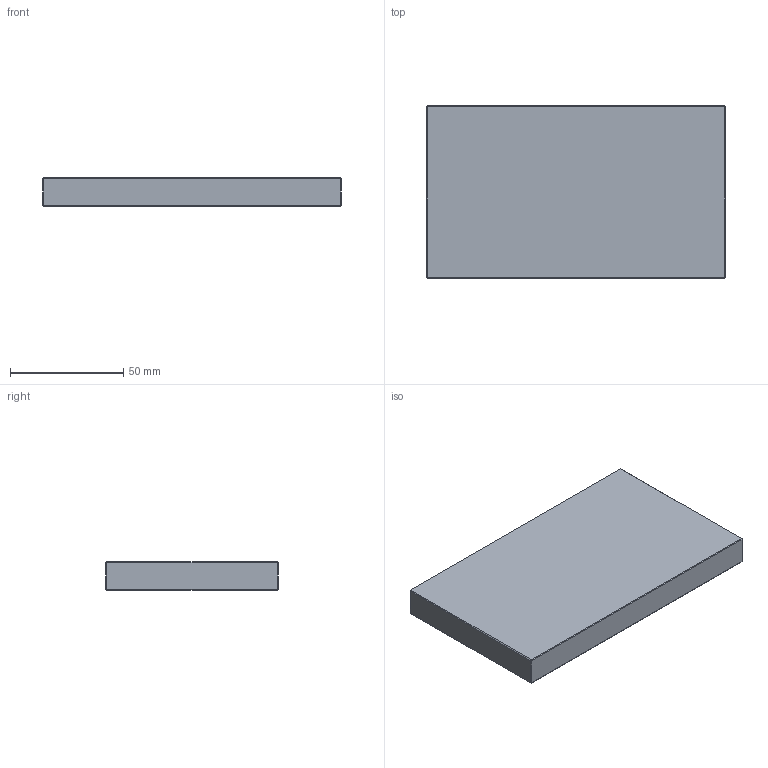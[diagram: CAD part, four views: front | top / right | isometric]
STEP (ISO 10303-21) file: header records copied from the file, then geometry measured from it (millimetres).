
FILE_DESCRIPTION(('Open CASCADE Model'),'2;1');
FILE_NAME('Open CASCADE Shape Model','2026-09-29T12:48:02',('Author'),( 'Open CASCADE'),'Open CASCADE STEP processor 7.9','Open CASCADE 7.9' ,'Unknown');
FILE_SCHEMA(('AUTOMOTIVE_DESIGN { 1 0 10303 214 1 1 1 1 }'));
Length unit declared in the file: millimetre
Products named in the file (1): Open CASCADE STEP translator 7.9 6
Bounding box: 132 x 76.2 x 12.7 mm (x, y, z)
Volume: 127671.3 mm3; surface area: 25197.6 mm2
Topology: 1 solids, 1 shells, 26 faces, 48 edges, 24 vertices
Faces by surface type: plane 26
Entity records: 1234 total; most frequent: DIRECTION 198, CARTESIAN_POINT 195, LINE 144, VECTOR 144, ORIENTED_EDGE 96, PCURVE 96, DEFINITIONAL_REPRESENTATION 96, EDGE_CURVE 48
